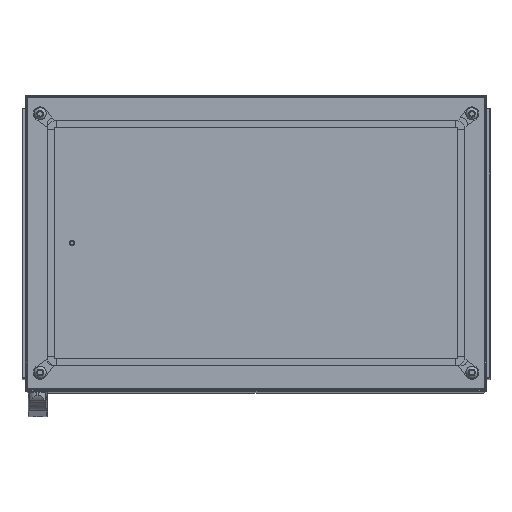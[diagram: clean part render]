
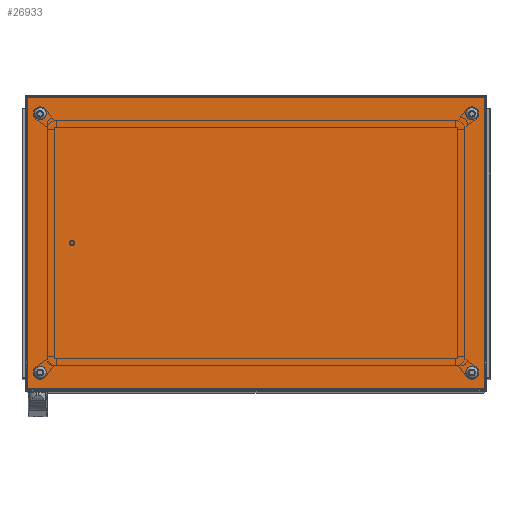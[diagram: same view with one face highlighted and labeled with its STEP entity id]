
A CAD part, top view. The second image highlights one B-rep face of the part: STEP entity #26933.
In plain terms, the highlighted planar face has unit normal (0, 0, 1).
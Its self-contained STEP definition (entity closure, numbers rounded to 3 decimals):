
#1331=CIRCLE('',#28929,6.);
#1332=CIRCLE('',#28930,6.);
#1333=CIRCLE('',#28931,6.);
#1334=CIRCLE('',#28932,6.);
#5087=ORIENTED_EDGE('',*,*,#11481,.F.);
#5088=ORIENTED_EDGE('',*,*,#11482,.F.);
#5089=ORIENTED_EDGE('',*,*,#11483,.F.);
#5090=ORIENTED_EDGE('',*,*,#11484,.F.);
#5091=ORIENTED_EDGE('',*,*,#11470,.T.);
#5092=ORIENTED_EDGE('',*,*,#11478,.T.);
#5093=ORIENTED_EDGE('',*,*,#11441,.F.);
#5094=ORIENTED_EDGE('',*,*,#11485,.F.);
#11441=EDGE_CURVE('',#14873,#14874,#17561,.T.);
#11470=EDGE_CURVE('',#14895,#14894,#17567,.T.);
#11478=EDGE_CURVE('',#14894,#14874,#17572,.T.);
#11481=EDGE_CURVE('',#14896,#14896,#1331,.T.);
#11482=EDGE_CURVE('',#14897,#14897,#1332,.T.);
#11483=EDGE_CURVE('',#14898,#14898,#1333,.T.);
#11484=EDGE_CURVE('',#14899,#14899,#1334,.T.);
#11485=EDGE_CURVE('',#14895,#14873,#17575,.T.);
#14873=VERTEX_POINT('',#42057);
#14874=VERTEX_POINT('',#42059);
#14894=VERTEX_POINT('',#42133);
#14895=VERTEX_POINT('',#42135);
#14896=VERTEX_POINT('',#42152);
#14897=VERTEX_POINT('',#42154);
#14898=VERTEX_POINT('',#42156);
#14899=VERTEX_POINT('',#42158);
#17561=LINE('',#42058,#19906);
#17567=LINE('',#42134,#19912);
#17572=LINE('',#42146,#19917);
#17575=LINE('',#42159,#19920);
#19906=VECTOR('',#33707,1000.);
#19912=VECTOR('',#33761,1000.);
#19917=VECTOR('',#33778,1000.);
#19920=VECTOR('',#33793,1000.);
#21949=EDGE_LOOP('',(#5087));
#21950=EDGE_LOOP('',(#5088));
#21951=EDGE_LOOP('',(#5089));
#21952=EDGE_LOOP('',(#5090));
#21953=EDGE_LOOP('',(#5091,#5092,#5093,#5094));
#24156=FACE_BOUND('',#21949,.T.);
#24157=FACE_BOUND('',#21950,.T.);
#24158=FACE_BOUND('',#21951,.T.);
#24159=FACE_BOUND('',#21952,.T.);
#24160=FACE_BOUND('',#21953,.T.);
#26020=PLANE('',#28928);
#26933=ADVANCED_FACE('',(#24156,#24157,#24158,#24159,#24160),#26020,.T.);
#28928=AXIS2_PLACEMENT_3D('',#42150,#33783,#33784);
#28929=AXIS2_PLACEMENT_3D('',#42151,#33785,#33786);
#28930=AXIS2_PLACEMENT_3D('',#42153,#33787,#33788);
#28931=AXIS2_PLACEMENT_3D('',#42155,#33789,#33790);
#28932=AXIS2_PLACEMENT_3D('',#42157,#33791,#33792);
#33707=DIRECTION('',(-1.,0.,0.));
#33761=DIRECTION('',(-1.,0.,0.));
#33778=DIRECTION('',(0.,-1.,0.));
#33783=DIRECTION('',(0.,0.,1.));
#33784=DIRECTION('',(1.,0.,0.));
#33785=DIRECTION('',(0.,0.,1.));
#33786=DIRECTION('',(1.,0.,0.));
#33787=DIRECTION('',(0.,0.,1.));
#33788=DIRECTION('',(1.,0.,0.));
#33789=DIRECTION('',(0.,0.,1.));
#33790=DIRECTION('',(1.,0.,0.));
#33791=DIRECTION('',(0.,0.,1.));
#33792=DIRECTION('',(1.,0.,0.));
#33793=DIRECTION('',(0.,-1.,0.));
#42057=CARTESIAN_POINT('',(396.5,-252.5,20.));
#42058=CARTESIAN_POINT('',(400.,-252.5,20.));
#42059=CARTESIAN_POINT('',(-396.5,-252.5,20.));
#42133=CARTESIAN_POINT('',(-396.5,252.5,20.));
#42134=CARTESIAN_POINT('',(400.,252.5,20.));
#42135=CARTESIAN_POINT('',(396.5,252.5,20.));
#42146=CARTESIAN_POINT('',(-396.5,255.5,20.));
#42150=CARTESIAN_POINT('',(-396.5,-252.5,20.));
#42151=CARTESIAN_POINT('',(374.5,-224.5,20.));
#42152=CARTESIAN_POINT('',(380.5,-224.5,20.));
#42153=CARTESIAN_POINT('',(-374.5,224.5,20.));
#42154=CARTESIAN_POINT('',(-368.5,224.5,20.));
#42155=CARTESIAN_POINT('',(374.5,224.5,20.));
#42156=CARTESIAN_POINT('',(380.5,224.5,20.));
#42157=CARTESIAN_POINT('',(-374.5,-224.5,20.));
#42158=CARTESIAN_POINT('',(-368.5,-224.5,20.));
#42159=CARTESIAN_POINT('',(396.5,255.5,20.));
